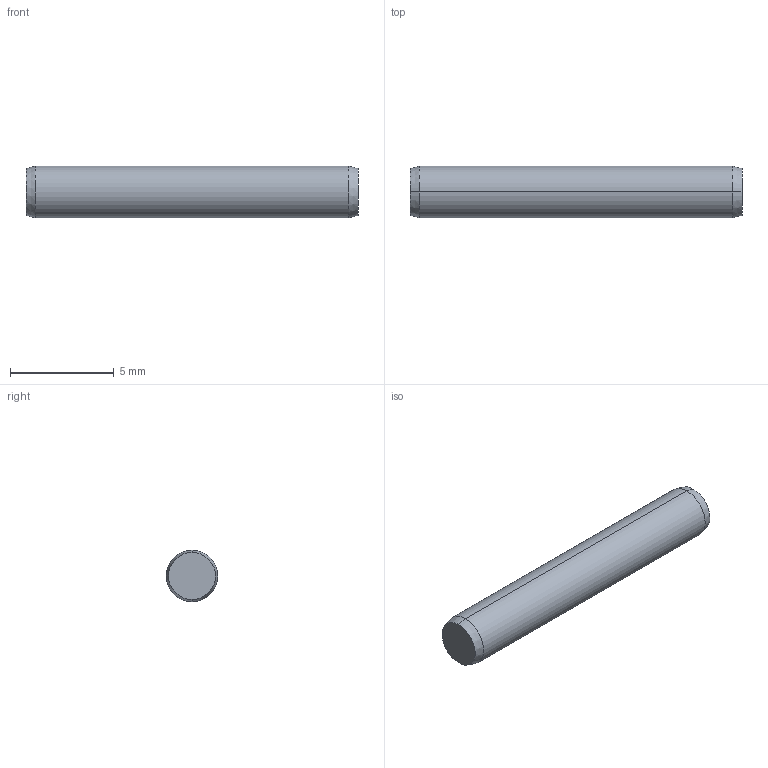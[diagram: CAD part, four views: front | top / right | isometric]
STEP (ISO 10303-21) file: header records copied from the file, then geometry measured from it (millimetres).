
FILE_DESCRIPTION (( 'STEP AP203' ), '1' );
FILE_NAME ('P1206.025-016.step', '2017-06-14T08:00:50', ( 'User' ), ( '' ), 'SwSTEP 2.0', 'SolidWorks 2009', '' );
FILE_SCHEMA (( 'CONFIG_CONTROL_DESIGN' ));
Length unit declared in the file: millimetre
Products named in the file (1): P1206.025-016
Bounding box: 16 x 2.5 x 2.5 mm (x, y, z)
Volume: 78.1 mm3; surface area: 133.6 mm2
Topology: 1 solids, 1 shells, 8 faces, 14 edges, 8 vertices
Faces by surface type: cone 4, cylinder 2, plane 2
Entity records: 271 total; most frequent: DIRECTION 40, CARTESIAN_POINT 31, ORIENTED_EDGE 28, AXIS2_PLACEMENT_3D 17, EDGE_CURVE 14, FACE_OUTER_BOUND 8, CIRCLE 8, PERSON_AND_ORGANIZATION 8
